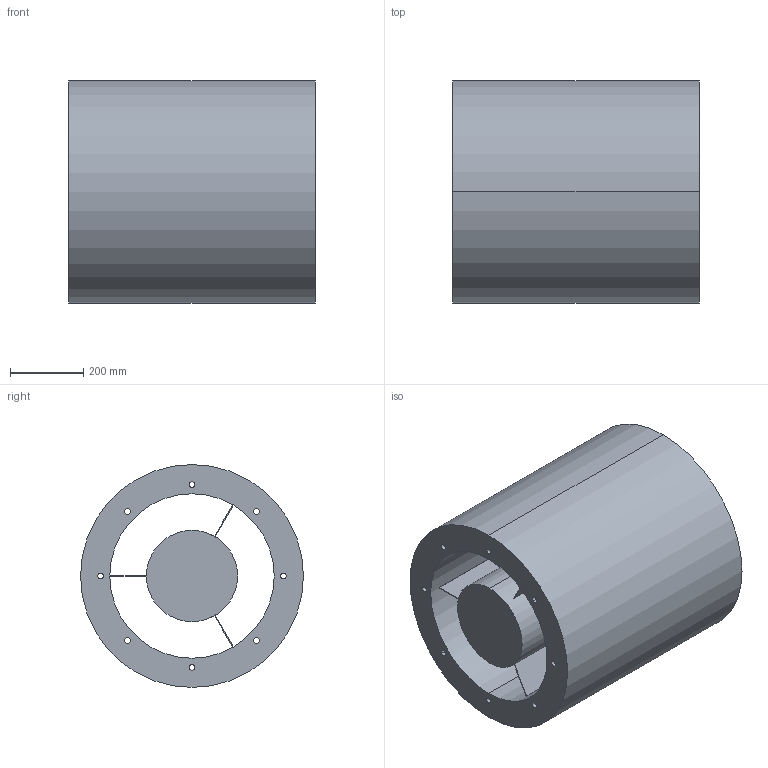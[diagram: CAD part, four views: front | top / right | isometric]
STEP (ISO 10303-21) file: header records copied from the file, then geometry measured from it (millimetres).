
FILE_DESCRIPTION(('STEP AP214'),'1');
FILE_NAME('accessory_5211813700.stp','2017-10-09T11:38:07',('TraceParts'),('TraceParts S.A.'),'Spatial InterOp 3D',' ',' ');
FILE_SCHEMA(('automotive_design'));
Length unit declared in the file: millimetre
Products named in the file (1): accessory_5211813700
Bounding box: 675 x 610 x 610 mm (x, y, z)
Volume: 118426370.3 mm3; surface area: 3618127.2 mm2
Topology: 1 solids, 1 shells, 40 faces, 107 edges, 71 vertices
Faces by surface type: cylinder 22, plane 16, torus 2
Entity records: 1664 total; most frequent: DIRECTION 250, CARTESIAN_POINT 219, ORIENTED_EDGE 214, EDGE_CURVE 107, AXIS2_PLACEMENT_3D 102, VERTEX_POINT 71, EDGE_LOOP 64, CIRCLE 61
